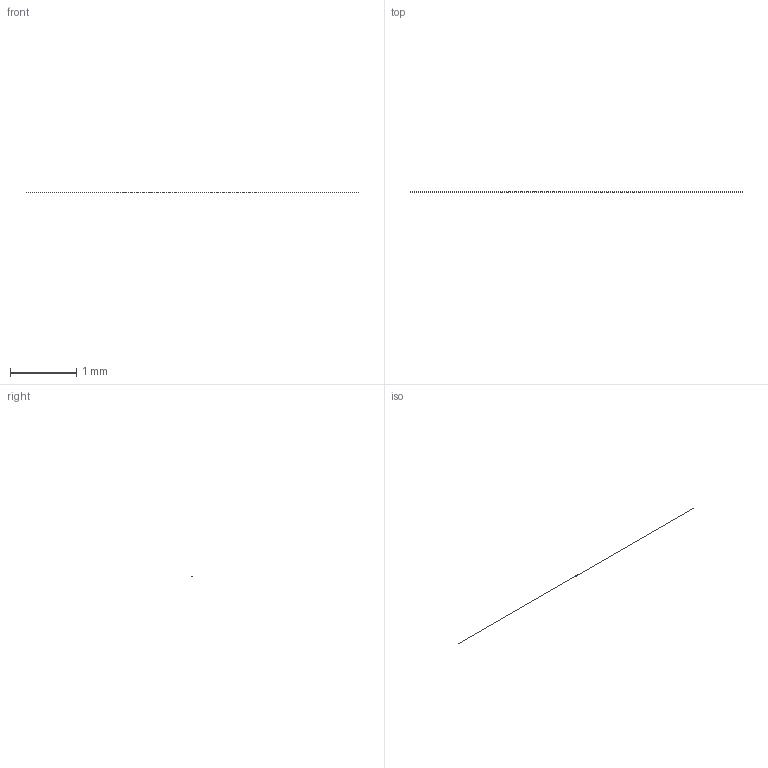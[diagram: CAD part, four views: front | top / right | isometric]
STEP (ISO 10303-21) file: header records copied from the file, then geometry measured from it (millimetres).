
FILE_DESCRIPTION(('BRL-CAD AP203 closed curve seam interval fixture'),'2;1');
FILE_NAME('ap203_closed_curve_seam_interval.stp','2026-07-22T00:00:00',('BRL-CAD'),('BRL-CAD'),'','','');
FILE_SCHEMA(('CONFIG_CONTROL_DESIGN'));
Length unit declared in the file: millimetre
Products named in the file (1): closed_curve_seam_interval
Bounding box: 5 x 0 x 0 mm (x, y, z)
Surface area: 0 mm2 (no closed solid volume)
Topology: 0 solids, 1 shells, 1 faces, 4 edges, 4 vertices
Faces by surface type: plane 1
Entity records: 55 total; most frequent: CARTESIAN_POINT 14, VERTEX_POINT 4, DIRECTION 4, EDGE_CURVE 4, ORIENTED_EDGE 4, VECTOR 2, LINE 2, AXIS2_PLACEMENT_3D 1
